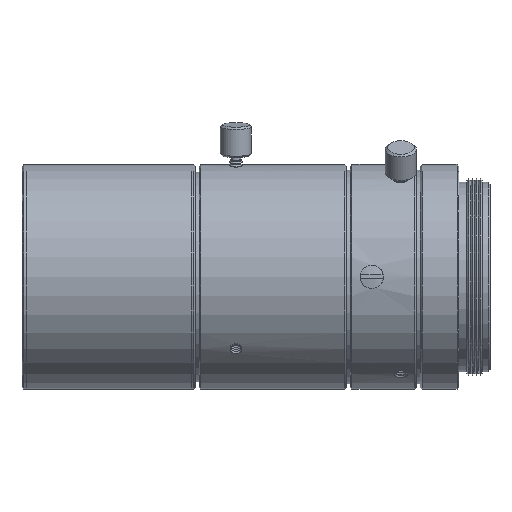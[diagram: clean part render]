
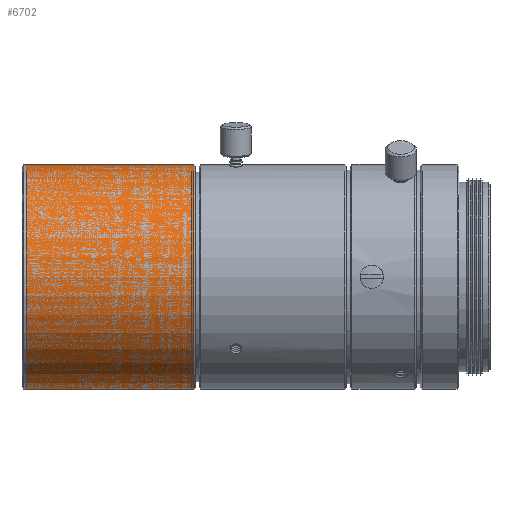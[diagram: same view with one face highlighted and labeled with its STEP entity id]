
A CAD part, top view. The second image highlights one B-rep face of the part: STEP entity #6702.
In plain terms, the highlighted cylindrical face has radius 14.5 mm (diameter 29 mm), a partial arc.
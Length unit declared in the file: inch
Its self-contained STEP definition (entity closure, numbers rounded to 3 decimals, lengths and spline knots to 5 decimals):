
#201 = DIRECTION ( 'NONE',  ( 1., 0., 0. ) ) ;
#505 = CARTESIAN_POINT ( 'NONE',  ( -2.88583, 0.57087, 0. ) ) ;
#1488 = CIRCLE ( 'NONE', #60366, 0.57087 ) ;
#2748 = ORIENTED_EDGE ( 'NONE', *, *, #4614, .F. ) ;
#3091 = EDGE_CURVE ( 'NONE', #47064, #20974, #13199, .T. ) ;
#4583 = DIRECTION ( 'NONE',  ( 0., 1., 0. ) ) ;
#4614 = EDGE_CURVE ( 'NONE', #47064, #53810, #40175, .T. ) ;
#5395 = DIRECTION ( 'NONE',  ( 0., 1., 0. ) ) ;
#5529 = DIRECTION ( 'NONE',  ( -1., 0., 0. ) ) ;
#6702 = ADVANCED_FACE ( 'NONE', ( #56499 ), #36384, .T. ) ;
#7355 = AXIS2_PLACEMENT_3D ( 'NONE', #61857, #5529, #41067 ) ;
#8723 = EDGE_LOOP ( 'NONE', ( #45591, #2748, #31930, #29745 ) ) ;
#10991 = VECTOR ( 'NONE', #18563, 39.37008 ) ;
#13199 = LINE ( 'NONE', #64492, #10991 ) ;
#14461 = AXIS2_PLACEMENT_3D ( 'NONE', #36213, #56691, #5395 ) ;
#16397 = LINE ( 'NONE', #46559, #54451 ) ;
#18563 = DIRECTION ( 'NONE',  ( -1., 0., 0. ) ) ;
#20974 = VERTEX_POINT ( 'NONE', #505 ) ;
#26421 = CARTESIAN_POINT ( 'NONE',  ( -2.03543, -0.57087, 0. ) ) ;
#26791 = DIRECTION ( 'NONE',  ( -1., 0., 0. ) ) ;
#29745 = ORIENTED_EDGE ( 'NONE', *, *, #38838, .T. ) ;
#31930 = ORIENTED_EDGE ( 'NONE', *, *, #3091, .T. ) ;
#36213 = CARTESIAN_POINT ( 'NONE',  ( -2.03543, 0., 0. ) ) ;
#36384 = CYLINDRICAL_SURFACE ( 'NONE', #7355, 0.57087 ) ;
#37003 = CARTESIAN_POINT ( 'NONE',  ( -2.03543, 0.57087, 0. ) ) ;
#38838 = EDGE_CURVE ( 'NONE', #20974, #59507, #1488, .T. ) ;
#40175 = CIRCLE ( 'NONE', #14461, 0.57087 ) ;
#41067 = DIRECTION ( 'NONE',  ( 0., 1., 0. ) ) ;
#42810 = EDGE_CURVE ( 'NONE', #53810, #59507, #16397, .T. ) ;
#45591 = ORIENTED_EDGE ( 'NONE', *, *, #42810, .F. ) ;
#46559 = CARTESIAN_POINT ( 'NONE',  ( -2.46063, -0.57087, 0. ) ) ;
#47064 = VERTEX_POINT ( 'NONE', #37003 ) ;
#51177 = CARTESIAN_POINT ( 'NONE',  ( -2.88583, 0., 0. ) ) ;
#53810 = VERTEX_POINT ( 'NONE', #26421 ) ;
#54451 = VECTOR ( 'NONE', #26791, 39.37008 ) ;
#56499 = FACE_OUTER_BOUND ( 'NONE', #8723, .T. ) ;
#56691 = DIRECTION ( 'NONE',  ( 1., 0., 0. ) ) ;
#56898 = CARTESIAN_POINT ( 'NONE',  ( -2.88583, -0.57087, 0. ) ) ;
#59507 = VERTEX_POINT ( 'NONE', #56898 ) ;
#60366 = AXIS2_PLACEMENT_3D ( 'NONE', #51177, #201, #4583 ) ;
#61857 = CARTESIAN_POINT ( 'NONE',  ( -2.46063, 0., 0. ) ) ;
#64492 = CARTESIAN_POINT ( 'NONE',  ( -2.46063, 0.57087, 0. ) ) ;
